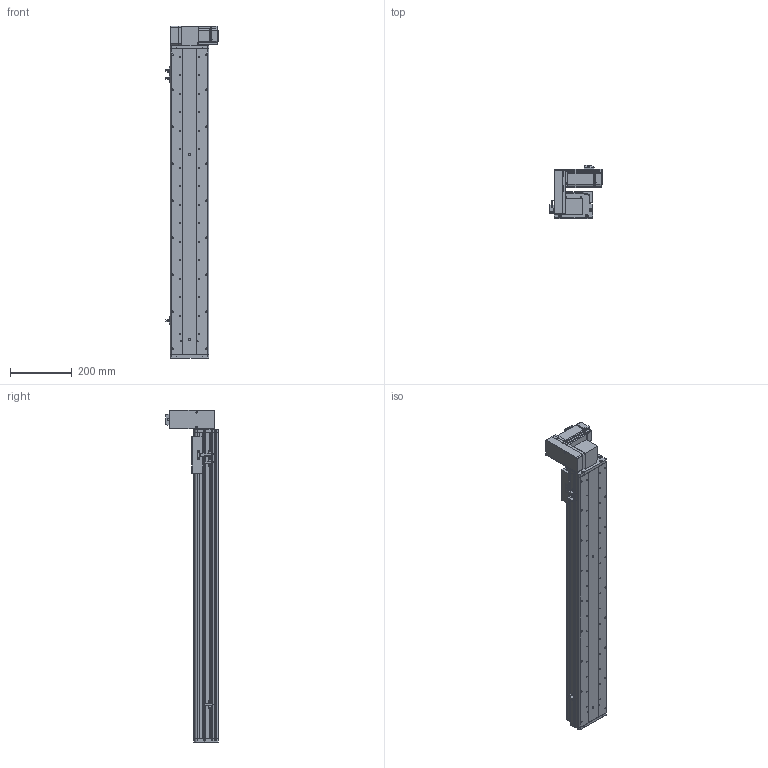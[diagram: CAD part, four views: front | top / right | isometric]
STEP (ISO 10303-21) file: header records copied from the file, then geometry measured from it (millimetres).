
FILE_DESCRIPTION (( 'STEP AP214' ), '1' );
FILE_NAME ('KSD125B-S800-MRU-CM.STEP', '2017-10-21T07:34:43', ( '微软用户' ), ( '微软中国' ), 'SwSTEP 2.0', 'SolidWorks 2014', '' );
FILE_SCHEMA (( 'AUTOMOTIVE_DESIGN' ));
Length unit declared in the file: millimetre
Products named in the file (17): 悵誘欶奻狟殏; KSD125模组同步带-滑动座1; HTPA30S3M150_A_H6_a佪裝蚚; HTPA30S3M150_A_H6_a萇儂蚚; KSD125B-S800-MRU-CM; 100宽马达安装板连板上下折丝杆同步带; KSD125模组800行程同步带-防尘盖; 125模组800行程同步带-底板; MHMD042G1CA_2_03; KSD125模组同步带-防撞垫2; 覜茼え68遵圉猾敕; U倰嫖萇假蚾璃; U倰嫖萇EEㄜSX672; 100宽马达安装板同步带右; KSD125模组同步带-防撞垫1; 125模组同步带-尾端板1; 前端板-125宽模组同步带
Assembly tree (20 placements, depth 2):
  KSD125B-S800-MRU-CM
    KSD125模组同步带-滑动座1
    125模组同步带-尾端板1
    前端板-125宽模组同步带
    100宽马达安装板同步带右
    KSD125模组同步带-防撞垫1
    U倰嫖萇EEㄜSX672  x3
    U倰嫖萇假蚾璃  x3
    覜茼え68遵圉猾敕
    KSD125模组同步带-防撞垫2
    MHMD042G1CA_2_03
    125模组800行程同步带-底板
    KSD125模组800行程同步带-防尘盖
    100宽马达安装板连板上下折丝杆同步带
    HTPA30S3M150_A_H6_a萇儂蚚
    HTPA30S3M150_A_H6_a佪裝蚚
    悵誘欶奻狟殏
Bounding box: 168.7 x 170.5 x 1077 mm (x, y, z)
Volume: 3390917.4 mm3; surface area: 1152975.8 mm2
Topology: 19 solids, 22 shells, 2289 faces, 6631 edges, 4382 vertices
Faces by surface type: cylinder 1436, plane 726, cone 105, bspline 22
Entity records: 81401 total; most frequent: CARTESIAN_POINT 16077, DIRECTION 12656, ORIENTED_EDGE 11782, EDGE_CURVE 5969, AXIS2_PLACEMENT_3D 4893, VERTEX_POINT 3974, VECTOR 2870, LINE 2870
